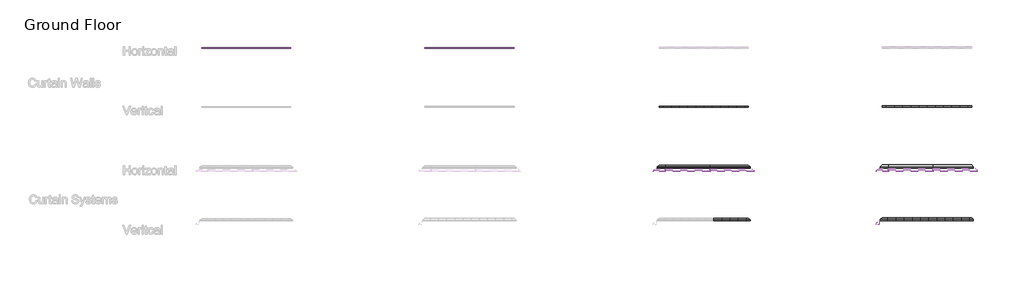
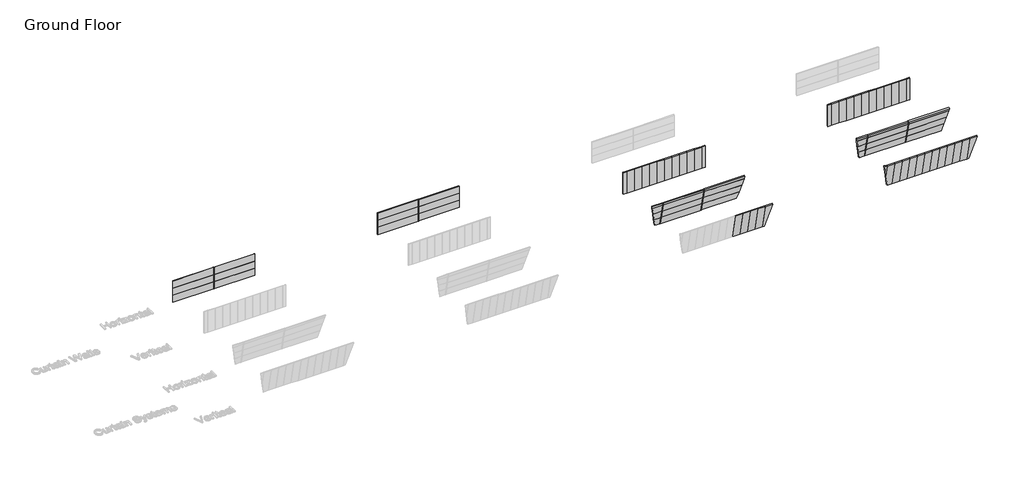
# One storey, part 2 of 9: 78 plates, 22 members.
"""IFC4 building model written with IfcOpenShell, lengths in millimetres."""

from ifc_helpers import new_model, si_unit, origin, place, context, project, spatial, transform, mapped, element, save
from components import rectangular_mullion_pi_mullion_20gap_50depth_70width_047f249b, rectangular_mullion_pi_mullion_20gap_50depth_70width_81056362, rectangular_mullion_pi_mullion_20gap_50depth_70width_d86b8fff, system_panel_73bd7d10, system_panel_42c71903, system_panel_b43a76cf, system_panel_9ec27122, system_panel_e01370ed, system_panel_aee32327, system_panel_6c2b58ab, system_panel_86827932, system_panel_3237bd97, system_panel_7c7c704d, system_panel_694ff7dd, system_panel_97bfa6f5, system_panel_9920641b, system_panel_9c52725a, system_panel_bb879a09, system_panel_51c253d5, system_panel_78d070a1, system_panel_58f566e3, system_panel_3ce11bf5, system_panel_ed6e4fb9, system_panel_b559e272, system_panel_e0de6927, system_panel_362cc927, system_panel_5eaa5fa1, system_panel_1fb29ec4, system_panel_d4aeffd6, system_panel_dc39182a, system_panel_95cb4938, system_panel_1fb53309, system_panel_07ade12d, system_panel_2bcd8dc4, system_panel_894761f5

model = new_model("IFC4")

# Units and contexts
model_context = context("Model", 3, world=origin())
ifc_project = project(units=[si_unit("LENGTHUNIT", "METRE", prefix="MILLI")], contexts=[model_context])

# Site, building, storey
site = spatial("IfcSite", under=ifc_project)
building = spatial("IfcBuilding", under=site)
storey = spatial("IfcBuildingStorey", under=building, Name="Ground Floor", Elevation=0.0)

# Members
placement = place(None, origin())
rectangular_mullion_pi_mullion_20gap_50depth_70width_shape = rectangular_mullion_pi_mullion_20gap_50depth_70width_047f249b(model_context)
element("IfcMember", 1, ObjectType="Rectangular Mullion : PI-Mullion - 20Gap-50Depth-70Width", at=placement, inside=storey, context=model_context, shape_type="MappedRepresentation", body=[
    mapped(rectangular_mullion_pi_mullion_20gap_50depth_70width_shape, transform((-44997.533429, 4766.6714822, 0.0), x_axis=(1.0, 0.0, 0.0), y_axis=(0.0, -1.0, 0.0), z_axis=(0.0, 0.0, -1.0))),
])
element("IfcMember", 2, ObjectType="Rectangular Mullion : PI-Mullion - 20Gap-50Depth-70Width", at=placement, inside=storey, context=model_context, shape_type="MappedRepresentation", body=[
    mapped(rectangular_mullion_pi_mullion_20gap_50depth_70width_shape, transform((-14997.533429, 4766.6714822, 0.0), x_axis=(1.0, 0.0, 0.0), y_axis=(0.0, -1.0, 0.0), z_axis=(0.0, 0.0, -1.0))),
])
element("IfcMember", 3, ObjectType="Rectangular Mullion : PI-Mullion - 20Gap-50Depth-70Width", at=placement, inside=storey, context=model_context, shape_type="MappedRepresentation", body=[
    mapped(rectangular_mullion_pi_mullion_20gap_50depth_70width_shape, transform((-44997.533429, 4766.6714822, 1100.0), x_axis=(1.0, 0.0, 0.0), y_axis=(0.0, -1.0, 0.0), z_axis=(0.0, 0.0, -1.0))),
])
element("IfcMember", 4, ObjectType="Rectangular Mullion : PI-Mullion - 20Gap-50Depth-70Width", at=placement, inside=storey, context=model_context, shape_type="MappedRepresentation", body=[
    mapped(rectangular_mullion_pi_mullion_20gap_50depth_70width_shape, transform((-14997.533429, 4766.6714822, 1100.0), x_axis=(1.0, 0.0, 0.0), y_axis=(0.0, -1.0, 0.0), z_axis=(0.0, 0.0, -1.0))),
])
element("IfcMember", 5, ObjectType="Rectangular Mullion : PI-Mullion - 20Gap-50Depth-70Width", at=placement, inside=storey, context=model_context, shape_type="MappedRepresentation", body=[
    mapped(rectangular_mullion_pi_mullion_20gap_50depth_70width_shape, transform((-44997.533429, 4766.6714822, 2200.0), x_axis=(1.0, 0.0, 0.0), y_axis=(0.0, -1.0, 0.0), z_axis=(0.0, 0.0, -1.0))),
])
element("IfcMember", 6, ObjectType="Rectangular Mullion : PI-Mullion - 20Gap-50Depth-70Width", at=placement, inside=storey, context=model_context, shape_type="MappedRepresentation", body=[
    mapped(rectangular_mullion_pi_mullion_20gap_50depth_70width_shape, transform((-14997.533429, 4766.6714822, 2200.0), x_axis=(1.0, 0.0, 0.0), y_axis=(0.0, -1.0, 0.0), z_axis=(0.0, 0.0, -1.0))),
])
rectangular_mullion_pi_mullion_20gap_50depth_70width_2_shape = rectangular_mullion_pi_mullion_20gap_50depth_70width_81056362(model_context)
element("IfcMember", 7, ObjectType="Rectangular Mullion : PI-Mullion - 20Gap-50Depth-70Width", at=placement, inside=storey, context=model_context, shape_type="MappedRepresentation", body=[
    mapped(rectangular_mullion_pi_mullion_20gap_50depth_70width_2_shape, transform((17312.466571, -11836.337246, 3600.0), x_axis=(-1.0, 0.0, 0.0), y_axis=(0.0, -0.9782687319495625, -0.2073409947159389), z_axis=(0.0, -0.2073409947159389, 0.9782687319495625))),
])
element("IfcMember", 8, ObjectType="Rectangular Mullion : PI-Mullion - 20Gap-50Depth-70Width", at=placement, inside=storey, context=model_context, shape_type="MappedRepresentation", body=[
    mapped(rectangular_mullion_pi_mullion_20gap_50depth_70width_2_shape, transform((11312.466571, -11836.337246, 3600.0), x_axis=(-1.0, 0.0, 0.0), y_axis=(0.0, -0.9782687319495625, -0.2073409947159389), z_axis=(0.0, -0.2073409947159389, 0.9782687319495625))),
])
element("IfcMember", 9, ObjectType="Rectangular Mullion : PI-Mullion - 20Gap-50Depth-70Width", at=placement, inside=storey, context=model_context, shape_type="MappedRepresentation", body=[
    mapped(rectangular_mullion_pi_mullion_20gap_50depth_70width_2_shape, transform((47312.466571, -11836.337246, 3600.0), x_axis=(-1.0, 0.0, 0.0), y_axis=(0.0, -0.9782687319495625, -0.2073409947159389), z_axis=(0.0, -0.2073409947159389, 0.9782687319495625))),
])
element("IfcMember", 10, ObjectType="Rectangular Mullion : PI-Mullion - 20Gap-50Depth-70Width", at=placement, inside=storey, context=model_context, shape_type="MappedRepresentation", body=[
    mapped(rectangular_mullion_pi_mullion_20gap_50depth_70width_2_shape, transform((41312.466571, -11836.337246, 3600.0), x_axis=(-1.0, 0.0, 0.0), y_axis=(0.0, -0.9782687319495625, -0.2073409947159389), z_axis=(0.0, -0.2073409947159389, 0.9782687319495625))),
])
rectangular_mullion_pi_mullion_20gap_50depth_70width_3_shape = rectangular_mullion_pi_mullion_20gap_50depth_70width_d86b8fff(model_context)
element("IfcMember", 11, ObjectType="Rectangular Mullion : PI-Mullion - 20Gap-50Depth-70Width", at=placement, inside=storey, context=model_context, shape_type="MappedRepresentation", body=[
    mapped(rectangular_mullion_pi_mullion_20gap_50depth_70width_3_shape, transform((17312.466571, -11301.403612, 1076.0956051), x_axis=(-1.0, 0.0, 0.0), y_axis=(0.0, -0.9782687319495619, -0.20734099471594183), z_axis=(0.0, -0.20734099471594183, 0.9782687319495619))),
])
element("IfcMember", 12, ObjectType="Rectangular Mullion : PI-Mullion - 20Gap-50Depth-70Width", at=placement, inside=storey, context=model_context, shape_type="MappedRepresentation", body=[
    mapped(rectangular_mullion_pi_mullion_20gap_50depth_70width_3_shape, transform((11312.466571, -11301.403612, 1076.0956051), x_axis=(-1.0, 0.0, 0.0), y_axis=(0.0, -0.9782687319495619, -0.20734099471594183), z_axis=(0.0, -0.20734099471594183, 0.9782687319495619))),
])
element("IfcMember", 13, ObjectType="Rectangular Mullion : PI-Mullion - 20Gap-50Depth-70Width", at=placement, inside=storey, context=model_context, shape_type="MappedRepresentation", body=[
    mapped(rectangular_mullion_pi_mullion_20gap_50depth_70width_3_shape, transform((47312.466571, -11301.403612, 1076.0956051), x_axis=(-1.0, 0.0, 0.0), y_axis=(0.0, -0.9782687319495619, -0.20734099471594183), z_axis=(0.0, -0.20734099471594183, 0.9782687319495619))),
])
element("IfcMember", 14, ObjectType="Rectangular Mullion : PI-Mullion - 20Gap-50Depth-70Width", at=placement, inside=storey, context=model_context, shape_type="MappedRepresentation", body=[
    mapped(rectangular_mullion_pi_mullion_20gap_50depth_70width_3_shape, transform((41312.466571, -11301.403612, 1076.0956051), x_axis=(-1.0, 0.0, 0.0), y_axis=(0.0, -0.9782687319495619, -0.20734099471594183), z_axis=(0.0, -0.20734099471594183, 0.9782687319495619))),
])
element("IfcMember", 15, ObjectType="Rectangular Mullion : PI-Mullion - 20Gap-50Depth-70Width", at=placement, inside=storey, context=model_context, shape_type="MappedRepresentation", body=[
    mapped(rectangular_mullion_pi_mullion_20gap_50depth_70width_3_shape, transform((17312.466571, -11529.4787062, 2152.1912103), x_axis=(-1.0, 0.0, 0.0), y_axis=(0.0, -0.9782687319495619, -0.2073409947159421), z_axis=(0.0, -0.20734099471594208, 0.9782687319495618))),
])
element("IfcMember", 16, ObjectType="Rectangular Mullion : PI-Mullion - 20Gap-50Depth-70Width", at=placement, inside=storey, context=model_context, shape_type="MappedRepresentation", body=[
    mapped(rectangular_mullion_pi_mullion_20gap_50depth_70width_3_shape, transform((11312.466571, -11529.4787062, 2152.1912103), x_axis=(-1.0, 0.0, 0.0), y_axis=(0.0, -0.9782687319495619, -0.2073409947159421), z_axis=(0.0, -0.20734099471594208, 0.9782687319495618))),
])
element("IfcMember", 17, ObjectType="Rectangular Mullion : PI-Mullion - 20Gap-50Depth-70Width", at=placement, inside=storey, context=model_context, shape_type="MappedRepresentation", body=[
    mapped(rectangular_mullion_pi_mullion_20gap_50depth_70width_3_shape, transform((17312.466571, -11757.5538004, 3228.2868154), x_axis=(-1.0, 0.0, 0.0), y_axis=(0.0, -0.978268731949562, -0.20734099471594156), z_axis=(0.0, -0.20734099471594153, 0.9782687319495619))),
])
element("IfcMember", 18, ObjectType="Rectangular Mullion : PI-Mullion - 20Gap-50Depth-70Width", at=placement, inside=storey, context=model_context, shape_type="MappedRepresentation", body=[
    mapped(rectangular_mullion_pi_mullion_20gap_50depth_70width_3_shape, transform((11312.466571, -11757.5538004, 3228.2868154), x_axis=(-1.0, 0.0, 0.0), y_axis=(0.0, -0.978268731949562, -0.20734099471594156), z_axis=(0.0, -0.20734099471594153, 0.9782687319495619))),
])
element("IfcMember", 19, ObjectType="Rectangular Mullion : PI-Mullion - 20Gap-50Depth-70Width", at=placement, inside=storey, context=model_context, shape_type="MappedRepresentation", body=[
    mapped(rectangular_mullion_pi_mullion_20gap_50depth_70width_3_shape, transform((47312.466571, -11529.4787062, 2152.1912103), x_axis=(-1.0, 0.0, 0.0), y_axis=(0.0, -0.9782687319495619, -0.2073409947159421), z_axis=(0.0, -0.20734099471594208, 0.9782687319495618))),
])
element("IfcMember", 20, ObjectType="Rectangular Mullion : PI-Mullion - 20Gap-50Depth-70Width", at=placement, inside=storey, context=model_context, shape_type="MappedRepresentation", body=[
    mapped(rectangular_mullion_pi_mullion_20gap_50depth_70width_3_shape, transform((41312.466571, -11529.4787062, 2152.1912103), x_axis=(-1.0, 0.0, 0.0), y_axis=(0.0, -0.9782687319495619, -0.2073409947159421), z_axis=(0.0, -0.20734099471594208, 0.9782687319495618))),
])
element("IfcMember", 21, ObjectType="Rectangular Mullion : PI-Mullion - 20Gap-50Depth-70Width", at=placement, inside=storey, context=model_context, shape_type="MappedRepresentation", body=[
    mapped(rectangular_mullion_pi_mullion_20gap_50depth_70width_3_shape, transform((47312.466571, -11757.5538004, 3228.2868154), x_axis=(-1.0, 0.0, 0.0), y_axis=(0.0, -0.978268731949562, -0.20734099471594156), z_axis=(0.0, -0.20734099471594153, 0.9782687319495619))),
])
element("IfcMember", 22, ObjectType="Rectangular Mullion : PI-Mullion - 20Gap-50Depth-70Width", at=placement, inside=storey, context=model_context, shape_type="MappedRepresentation", body=[
    mapped(rectangular_mullion_pi_mullion_20gap_50depth_70width_3_shape, transform((41312.466571, -11757.5538004, 3228.2868154), x_axis=(-1.0, 0.0, 0.0), y_axis=(0.0, -0.978268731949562, -0.20734099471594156), z_axis=(0.0, -0.20734099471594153, 0.9782687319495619))),
])

# Plates
system_panel_shape = system_panel_73bd7d10(model_context)
element("IfcPlate", 23, ObjectType="System Panel : MetecnoPanel 150mm Horizontal - Plain Astro - PIR", at=placement, inside=storey, context=model_context, shape_type="MappedRepresentation", body=[
    mapped(system_panel_shape, transform((20032.0327494, -11073.3285178, 0.0), x_axis=(-1.0, 0.0, 0.0), y_axis=(0.0, -0.978268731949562, -0.20734099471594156), z_axis=(0.0, -0.20734099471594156, 0.978268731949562))),
])
system_panel_2_shape = system_panel_42c71903(model_context)
element("IfcPlate", 24, ObjectType="System Panel : MetecnoPanel 150mm Horizontal - Plain Astro - PIR", at=placement, inside=storey, context=model_context, shape_type="MappedRepresentation", body=[
    mapped(system_panel_2_shape, transform((14312.466571, -11073.3285178, 0.0), x_axis=(-1.0, 0.0, 0.0), y_axis=(0.0, -0.978268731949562, -0.20734099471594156), z_axis=(0.0, -0.20734099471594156, 0.978268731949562))),
])
element("IfcPlate", 25, ObjectType="System Panel : MetecnoPanel 150mm Horizontal - Plain Astro - PIR", at=placement, inside=storey, context=model_context, shape_type="MappedRepresentation", body=[
    mapped(system_panel_2_shape, transform((14312.466571, -11301.403612, 1076.0956051), x_axis=(-1.0, 0.0, 0.0), y_axis=(0.0, -0.978268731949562, -0.20734099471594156), z_axis=(0.0, -0.20734099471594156, 0.978268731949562))),
])
element("IfcPlate", 26, ObjectType="System Panel : MetecnoPanel 150mm Horizontal - Plain Astro - PIR", at=placement, inside=storey, context=model_context, shape_type="MappedRepresentation", body=[
    mapped(system_panel_2_shape, transform((14312.466571, -11529.4787062, 2152.1912103), x_axis=(-1.0, 0.0, 0.0), y_axis=(0.0, -0.978268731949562, -0.20734099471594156), z_axis=(0.0, -0.20734099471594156, 0.978268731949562))),
])
system_panel_3_shape = system_panel_b43a76cf(model_context)
element("IfcPlate", 27, ObjectType="System Panel : MetecnoPanel 150mm Horizontal - Plain Astro - PIR", at=placement, inside=storey, context=model_context, shape_type="MappedRepresentation", body=[
    mapped(system_panel_3_shape, transform((10782.9003927, -11073.3285178, 0.0), x_axis=(-1.0, 0.0, 0.0), y_axis=(0.0, -0.978268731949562, -0.20734099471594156), z_axis=(0.0, -0.20734099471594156, 0.978268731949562))),
])
system_panel_4_shape = system_panel_9ec27122(model_context)
element("IfcPlate", 28, ObjectType="System Panel : MetecnoPanel 150mm Horizontal - Plain Astro - PIR", at=placement, inside=storey, context=model_context, shape_type="MappedRepresentation", body=[
    mapped(system_panel_4_shape, transform((20151.5989277, -11301.403612, 1076.0956051), x_axis=(-1.0, 0.0, 0.0), y_axis=(0.0, -0.978268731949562, -0.20734099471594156), z_axis=(0.0, -0.20734099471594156, 0.978268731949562))),
])
system_panel_5_shape = system_panel_e01370ed(model_context)
element("IfcPlate", 29, ObjectType="System Panel : MetecnoPanel 150mm Horizontal - Plain Astro - PIR", at=placement, inside=storey, context=model_context, shape_type="MappedRepresentation", body=[
    mapped(system_panel_5_shape, transform((10663.3342144, -11301.403612, 1076.0956051), x_axis=(-1.0, 0.0, 0.0), y_axis=(0.0, -0.978268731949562, -0.20734099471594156), z_axis=(0.0, -0.20734099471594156, 0.978268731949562))),
])
system_panel_6_shape = system_panel_aee32327(model_context)
element("IfcPlate", 30, ObjectType="System Panel : MetecnoPanel 150mm Horizontal - Plain Astro - PIR", at=placement, inside=storey, context=model_context, shape_type="MappedRepresentation", body=[
    mapped(system_panel_6_shape, transform((20271.1651061, -11529.4787062, 2152.1912103), x_axis=(-1.0, 0.0, 0.0), y_axis=(0.0, -0.978268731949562, -0.20734099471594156), z_axis=(0.0, -0.20734099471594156, 0.978268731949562))),
])
system_panel_7_shape = system_panel_6c2b58ab(model_context)
element("IfcPlate", 31, ObjectType="System Panel : MetecnoPanel 150mm Horizontal - Plain Astro - PIR", at=placement, inside=storey, context=model_context, shape_type="MappedRepresentation", body=[
    mapped(system_panel_7_shape, transform((10543.768036, -11529.4787062, 2152.1912103), x_axis=(-1.0, 0.0, 0.0), y_axis=(0.0, -0.978268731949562, -0.20734099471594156), z_axis=(0.0, -0.20734099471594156, 0.978268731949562))),
])
system_panel_8_shape = system_panel_86827932(model_context)
element("IfcPlate", 32, ObjectType="System Panel : MetecnoPanel 150mm Horizontal - Plain Astro - PIR", at=placement, inside=storey, context=model_context, shape_type="MappedRepresentation", body=[
    mapped(system_panel_8_shape, transform((20312.466571, -11757.5538004, 3228.2868154), x_axis=(-1.0, 0.0, 0.0), y_axis=(0.0, -0.978268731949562, -0.20734099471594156), z_axis=(0.0, -0.20734099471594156, 0.978268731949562))),
])
system_panel_9_shape = system_panel_3237bd97(model_context)
element("IfcPlate", 33, ObjectType="System Panel : MetecnoPanel 150mm Horizontal - Plain Astro - PIR", at=placement, inside=storey, context=model_context, shape_type="MappedRepresentation", body=[
    mapped(system_panel_9_shape, transform((14312.466571, -11757.5538004, 3228.2868154), x_axis=(-1.0, 0.0, 0.0), y_axis=(0.0, -0.978268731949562, -0.20734099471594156), z_axis=(0.0, -0.20734099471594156, 0.978268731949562))),
])
system_panel_10_shape = system_panel_7c7c704d(model_context)
element("IfcPlate", 34, ObjectType="System Panel : MetecnoPanel 150mm Horizontal - Plain Astro - PIR", at=placement, inside=storey, context=model_context, shape_type="MappedRepresentation", body=[
    mapped(system_panel_10_shape, transform((10502.466571, -11757.5538004, 3228.2868154), x_axis=(-1.0, 0.0, 0.0), y_axis=(0.0, -0.978268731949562, -0.20734099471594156), z_axis=(0.0, -0.20734099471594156, 0.978268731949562))),
])
system_panel_11_shape = system_panel_694ff7dd(model_context)
element("IfcPlate", 35, ObjectType="System Panel : MetecnoPanel 150mm Vertical - Plain Astro - PIR", at=placement, inside=storey, context=model_context, shape_type="MappedRepresentation", body=[
    mapped(system_panel_11_shape, transform((22752.466571, -18173.3285178, 0.0), x_axis=(-1.0, 0.0, 0.0), y_axis=(0.0, -0.978268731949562, -0.20734099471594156), z_axis=(0.0, -0.20734099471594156, 0.978268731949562))),
])
system_panel_12_shape = system_panel_97bfa6f5(model_context)
element("IfcPlate", 36, ObjectType="System Panel : MetecnoPanel 150mm Vertical - Plain Astro - PIR", at=placement, inside=storey, context=model_context, shape_type="MappedRepresentation", body=[
    mapped(system_panel_12_shape, transform((21652.466571, -18173.3285178, 0.0), x_axis=(-1.0, 0.0, 0.0), y_axis=(0.0, -0.978268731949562, -0.20734099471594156), z_axis=(0.0, -0.20734099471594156, 0.978268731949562))),
])
element("IfcPlate", 37, ObjectType="System Panel : MetecnoPanel 150mm Vertical - Plain Astro - PIR", at=placement, inside=storey, context=model_context, shape_type="MappedRepresentation", body=[
    mapped(system_panel_12_shape, transform((20552.466571, -18173.3285178, 0.0), x_axis=(-1.0, 0.0, 0.0), y_axis=(0.0, -0.978268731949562, -0.20734099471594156), z_axis=(0.0, -0.20734099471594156, 0.978268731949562))),
])
element("IfcPlate", 38, ObjectType="System Panel : MetecnoPanel 150mm Vertical - Plain Astro - PIR", at=placement, inside=storey, context=model_context, shape_type="MappedRepresentation", body=[
    mapped(system_panel_12_shape, transform((19452.466571, -18173.3285178, 0.0), x_axis=(-1.0, 0.0, 0.0), y_axis=(0.0, -0.978268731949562, -0.20734099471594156), z_axis=(0.0, -0.20734099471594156, 0.978268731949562))),
])
element("IfcPlate", 39, ObjectType="System Panel : MetecnoPanel 150mm Vertical - Plain Astro - PIR", at=placement, inside=storey, context=model_context, shape_type="MappedRepresentation", body=[
    mapped(system_panel_12_shape, transform((18352.466571, -18173.3285178, 0.0), x_axis=(-1.0, 0.0, 0.0), y_axis=(0.0, -0.978268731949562, -0.20734099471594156), z_axis=(0.0, -0.20734099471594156, 0.978268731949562))),
])
system_panel_13_shape = system_panel_9920641b(model_context)
element("IfcPlate", 40, ObjectType="System Panel : MetecnoPanel 200mm Horizontal - Plain Astro - PIR", at=placement, inside=storey, context=model_context, shape_type="MappedRepresentation", body=[
    mapped(system_panel_13_shape, transform((50032.0327494, -11073.3285178, 0.0), x_axis=(-1.0, 0.0, 0.0), y_axis=(0.0, -0.978268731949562, -0.20734099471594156), z_axis=(0.0, -0.20734099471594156, 0.978268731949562))),
])
system_panel_14_shape = system_panel_9c52725a(model_context)
element("IfcPlate", 41, ObjectType="System Panel : MetecnoPanel 200mm Horizontal - Plain Astro - PIR", at=placement, inside=storey, context=model_context, shape_type="MappedRepresentation", body=[
    mapped(system_panel_14_shape, transform((44312.466571, -11073.3285178, 0.0), x_axis=(-1.0, 0.0, 0.0), y_axis=(0.0, -0.978268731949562, -0.20734099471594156), z_axis=(0.0, -0.20734099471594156, 0.978268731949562))),
])
element("IfcPlate", 42, ObjectType="System Panel : MetecnoPanel 200mm Horizontal - Plain Astro - PIR", at=placement, inside=storey, context=model_context, shape_type="MappedRepresentation", body=[
    mapped(system_panel_14_shape, transform((44312.466571, -11301.403612, 1076.0956051), x_axis=(-1.0, 0.0, 0.0), y_axis=(0.0, -0.978268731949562, -0.20734099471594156), z_axis=(0.0, -0.20734099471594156, 0.978268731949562))),
])
element("IfcPlate", 43, ObjectType="System Panel : MetecnoPanel 200mm Horizontal - Plain Astro - PIR", at=placement, inside=storey, context=model_context, shape_type="MappedRepresentation", body=[
    mapped(system_panel_14_shape, transform((44312.466571, -11529.4787062, 2152.1912103), x_axis=(-1.0, 0.0, 0.0), y_axis=(0.0, -0.978268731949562, -0.20734099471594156), z_axis=(0.0, -0.20734099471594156, 0.978268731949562))),
])
system_panel_15_shape = system_panel_bb879a09(model_context)
element("IfcPlate", 44, ObjectType="System Panel : MetecnoPanel 200mm Horizontal - Plain Astro - PIR", at=placement, inside=storey, context=model_context, shape_type="MappedRepresentation", body=[
    mapped(system_panel_15_shape, transform((40782.9003927, -11073.3285178, 0.0), x_axis=(-1.0, 0.0, 0.0), y_axis=(0.0, -0.978268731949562, -0.20734099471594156), z_axis=(0.0, -0.20734099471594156, 0.978268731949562))),
])
system_panel_16_shape = system_panel_51c253d5(model_context)
element("IfcPlate", 45, ObjectType="System Panel : MetecnoPanel 200mm Horizontal - Plain Astro - PIR", at=placement, inside=storey, context=model_context, shape_type="MappedRepresentation", body=[
    mapped(system_panel_16_shape, transform((50151.5989277, -11301.403612, 1076.0956051), x_axis=(-1.0, 0.0, 0.0), y_axis=(0.0, -0.978268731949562, -0.20734099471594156), z_axis=(0.0, -0.20734099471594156, 0.978268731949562))),
])
system_panel_17_shape = system_panel_78d070a1(model_context)
element("IfcPlate", 46, ObjectType="System Panel : MetecnoPanel 200mm Horizontal - Plain Astro - PIR", at=placement, inside=storey, context=model_context, shape_type="MappedRepresentation", body=[
    mapped(system_panel_17_shape, transform((40663.3342144, -11301.403612, 1076.0956051), x_axis=(-1.0, 0.0, 0.0), y_axis=(0.0, -0.978268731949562, -0.20734099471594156), z_axis=(0.0, -0.20734099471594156, 0.978268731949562))),
])
system_panel_18_shape = system_panel_58f566e3(model_context)
element("IfcPlate", 47, ObjectType="System Panel : MetecnoPanel 200mm Horizontal - Plain Astro - PIR", at=placement, inside=storey, context=model_context, shape_type="MappedRepresentation", body=[
    mapped(system_panel_18_shape, transform((50271.1651061, -11529.4787062, 2152.1912103), x_axis=(-1.0, 0.0, 0.0), y_axis=(0.0, -0.978268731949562, -0.20734099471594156), z_axis=(0.0, -0.20734099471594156, 0.978268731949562))),
])
system_panel_19_shape = system_panel_3ce11bf5(model_context)
element("IfcPlate", 48, ObjectType="System Panel : MetecnoPanel 200mm Horizontal - Plain Astro - PIR", at=placement, inside=storey, context=model_context, shape_type="MappedRepresentation", body=[
    mapped(system_panel_19_shape, transform((40543.768036, -11529.4787062, 2152.1912103), x_axis=(-1.0, 0.0, 0.0), y_axis=(0.0, -0.978268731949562, -0.20734099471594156), z_axis=(0.0, -0.20734099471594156, 0.978268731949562))),
])
system_panel_20_shape = system_panel_ed6e4fb9(model_context)
element("IfcPlate", 49, ObjectType="System Panel : MetecnoPanel 200mm Horizontal - Plain Astro - PIR", at=placement, inside=storey, context=model_context, shape_type="MappedRepresentation", body=[
    mapped(system_panel_20_shape, transform((50312.466571, -11757.5538004, 3228.2868154), x_axis=(-1.0, 0.0, 0.0), y_axis=(0.0, -0.978268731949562, -0.20734099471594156), z_axis=(0.0, -0.20734099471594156, 0.978268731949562))),
])
system_panel_21_shape = system_panel_b559e272(model_context)
element("IfcPlate", 50, ObjectType="System Panel : MetecnoPanel 200mm Horizontal - Plain Astro - PIR", at=placement, inside=storey, context=model_context, shape_type="MappedRepresentation", body=[
    mapped(system_panel_21_shape, transform((44312.466571, -11757.5538004, 3228.2868154), x_axis=(-1.0, 0.0, 0.0), y_axis=(0.0, -0.978268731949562, -0.20734099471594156), z_axis=(0.0, -0.20734099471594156, 0.978268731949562))),
])
system_panel_22_shape = system_panel_e0de6927(model_context)
element("IfcPlate", 51, ObjectType="System Panel : MetecnoPanel 200mm Horizontal - Plain Astro - PIR", at=placement, inside=storey, context=model_context, shape_type="MappedRepresentation", body=[
    mapped(system_panel_22_shape, transform((40502.466571, -11757.5538004, 3228.2868154), x_axis=(-1.0, 0.0, 0.0), y_axis=(0.0, -0.978268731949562, -0.20734099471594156), z_axis=(0.0, -0.20734099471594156, 0.978268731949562))),
])
system_panel_23_shape = system_panel_362cc927(model_context)
element("IfcPlate", 52, ObjectType="System Panel : MetecnoPanel 200mm Vertical - Plain Astro - PIR", at=placement, inside=storey, context=model_context, shape_type="MappedRepresentation", body=[
    mapped(system_panel_23_shape, transform((52752.466571, -18173.3285178, 0.0), x_axis=(-1.0, 0.0, 0.0), y_axis=(0.0, -0.978268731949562, -0.20734099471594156), z_axis=(0.0, -0.20734099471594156, 0.978268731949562))),
])
system_panel_24_shape = system_panel_5eaa5fa1(model_context)
element("IfcPlate", 53, ObjectType="System Panel : MetecnoPanel 200mm Vertical - Plain Astro - PIR", at=placement, inside=storey, context=model_context, shape_type="MappedRepresentation", body=[
    mapped(system_panel_24_shape, transform((51652.466571, -18173.3285178, 0.0), x_axis=(-1.0, 0.0, 0.0), y_axis=(0.0, -0.978268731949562, -0.20734099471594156), z_axis=(0.0, -0.20734099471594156, 0.978268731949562))),
])
element("IfcPlate", 54, ObjectType="System Panel : MetecnoPanel 200mm Vertical - Plain Astro - PIR", at=placement, inside=storey, context=model_context, shape_type="MappedRepresentation", body=[
    mapped(system_panel_24_shape, transform((50552.466571, -18173.3285178, 0.0), x_axis=(-1.0, 0.0, 0.0), y_axis=(0.0, -0.978268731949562, -0.20734099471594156), z_axis=(0.0, -0.20734099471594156, 0.978268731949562))),
])
element("IfcPlate", 55, ObjectType="System Panel : MetecnoPanel 200mm Vertical - Plain Astro - PIR", at=placement, inside=storey, context=model_context, shape_type="MappedRepresentation", body=[
    mapped(system_panel_24_shape, transform((49452.466571, -18173.3285178, 0.0), x_axis=(-1.0, 0.0, 0.0), y_axis=(0.0, -0.978268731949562, -0.20734099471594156), z_axis=(0.0, -0.20734099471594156, 0.978268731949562))),
])
element("IfcPlate", 56, ObjectType="System Panel : MetecnoPanel 200mm Vertical - Plain Astro - PIR", at=placement, inside=storey, context=model_context, shape_type="MappedRepresentation", body=[
    mapped(system_panel_24_shape, transform((48352.466571, -18173.3285178, 0.0), x_axis=(-1.0, 0.0, 0.0), y_axis=(0.0, -0.978268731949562, -0.20734099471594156), z_axis=(0.0, -0.20734099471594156, 0.978268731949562))),
])
element("IfcPlate", 57, ObjectType="System Panel : MetecnoPanel 200mm Vertical - Plain Astro - PIR", at=placement, inside=storey, context=model_context, shape_type="MappedRepresentation", body=[
    mapped(system_panel_24_shape, transform((47252.466571, -18173.3285178, 0.0), x_axis=(-1.0, 0.0, 0.0), y_axis=(0.0, -0.978268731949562, -0.20734099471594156), z_axis=(0.0, -0.20734099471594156, 0.978268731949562))),
])
element("IfcPlate", 58, ObjectType="System Panel : MetecnoPanel 200mm Vertical - Plain Astro - PIR", at=placement, inside=storey, context=model_context, shape_type="MappedRepresentation", body=[
    mapped(system_panel_24_shape, transform((46152.466571, -18173.3285178, 0.0), x_axis=(-1.0, 0.0, 0.0), y_axis=(0.0, -0.978268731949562, -0.20734099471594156), z_axis=(0.0, -0.20734099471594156, 0.978268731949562))),
])
element("IfcPlate", 59, ObjectType="System Panel : MetecnoPanel 200mm Vertical - Plain Astro - PIR", at=placement, inside=storey, context=model_context, shape_type="MappedRepresentation", body=[
    mapped(system_panel_24_shape, transform((45052.466571, -18173.3285178, 0.0), x_axis=(-1.0, 0.0, 0.0), y_axis=(0.0, -0.978268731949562, -0.20734099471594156), z_axis=(0.0, -0.20734099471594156, 0.978268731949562))),
])
element("IfcPlate", 60, ObjectType="System Panel : MetecnoPanel 200mm Vertical - Plain Astro - PIR", at=placement, inside=storey, context=model_context, shape_type="MappedRepresentation", body=[
    mapped(system_panel_24_shape, transform((43952.466571, -18173.3285178, 0.0), x_axis=(-1.0, 0.0, 0.0), y_axis=(0.0, -0.978268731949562, -0.20734099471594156), z_axis=(0.0, -0.20734099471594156, 0.978268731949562))),
])
element("IfcPlate", 61, ObjectType="System Panel : MetecnoPanel 200mm Vertical - Plain Astro - PIR", at=placement, inside=storey, context=model_context, shape_type="MappedRepresentation", body=[
    mapped(system_panel_24_shape, transform((42852.466571, -18173.3285178, 0.0), x_axis=(-1.0, 0.0, 0.0), y_axis=(0.0, -0.978268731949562, -0.20734099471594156), z_axis=(0.0, -0.20734099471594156, 0.978268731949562))),
])
element("IfcPlate", 62, ObjectType="System Panel : MetecnoPanel 200mm Vertical - Plain Astro - PIR", at=placement, inside=storey, context=model_context, shape_type="MappedRepresentation", body=[
    mapped(system_panel_24_shape, transform((41752.466571, -18173.3285178, 0.0), x_axis=(-1.0, 0.0, 0.0), y_axis=(0.0, -0.978268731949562, -0.20734099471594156), z_axis=(0.0, -0.20734099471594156, 0.978268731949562))),
])
system_panel_25_shape = system_panel_1fb29ec4(model_context)
element("IfcPlate", 63, ObjectType="System Panel : MetecnoPanel 200mm Vertical - Plain Astro - PIR", at=placement, inside=storey, context=model_context, shape_type="MappedRepresentation", body=[
    mapped(system_panel_25_shape, transform((40652.466571, -18173.3285178, 0.0), x_axis=(-1.0, 0.0, 0.0), y_axis=(0.0, -0.978268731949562, -0.20734099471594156), z_axis=(0.0, -0.20734099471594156, 0.978268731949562))),
])
system_panel_26_shape = system_panel_d4aeffd6(model_context)
element("IfcPlate", 64, ObjectType="System Panel : MetecnoPanel 200mm Vertical - Plain Astro - PIR", at=placement, inside=storey, context=model_context, shape_type="MappedRepresentation", body=[
    mapped(system_panel_26_shape, transform((39902.466571, -18554.8328819, 1800.0), x_axis=(-1.0, 0.0, 0.0), y_axis=(0.0, -0.978268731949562, -0.20734099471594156), z_axis=(0.0, -0.20734099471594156, 0.978268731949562))),
])
system_panel_27_shape = system_panel_dc39182a(model_context)
element("IfcPlate", 65, ObjectType="System Panel : MetecnoPanel 75mm Horizontal - Plain Astro - PIR", at=placement, inside=storey, context=model_context, shape_type="MappedRepresentation", body=[
    mapped(system_panel_27_shape, transform((-48002.533429, 4766.6714822, 0.0), x_axis=(1.0, 0.0, 0.0), y_axis=(0.0, 1.0, 0.0), z_axis=(0.0, 0.0, 1.0))),
])
element("IfcPlate", 66, ObjectType="System Panel : MetecnoPanel 75mm Horizontal - Plain Astro - PIR", at=placement, inside=storey, context=model_context, shape_type="MappedRepresentation", body=[
    mapped(system_panel_27_shape, transform((-41992.533429, 4766.6714822, 0.0), x_axis=(1.0, 0.0, 0.0), y_axis=(0.0, 1.0, 0.0), z_axis=(0.0, 0.0, 1.0))),
])
element("IfcPlate", 67, ObjectType="System Panel : MetecnoPanel 75mm Horizontal - Plain Astro - PIR", at=placement, inside=storey, context=model_context, shape_type="MappedRepresentation", body=[
    mapped(system_panel_27_shape, transform((-48002.533429, 4766.6714822, 1100.0), x_axis=(1.0, 0.0, 0.0), y_axis=(0.0, 1.0, 0.0), z_axis=(0.0, 0.0, 1.0))),
])
element("IfcPlate", 68, ObjectType="System Panel : MetecnoPanel 75mm Horizontal - Plain Astro - PIR", at=placement, inside=storey, context=model_context, shape_type="MappedRepresentation", body=[
    mapped(system_panel_27_shape, transform((-41992.533429, 4766.6714822, 1100.0), x_axis=(1.0, 0.0, 0.0), y_axis=(0.0, 1.0, 0.0), z_axis=(0.0, 0.0, 1.0))),
])
element("IfcPlate", 69, ObjectType="System Panel : MetecnoPanel 75mm Horizontal - Plain Astro - PIR", at=placement, inside=storey, context=model_context, shape_type="MappedRepresentation", body=[
    mapped(system_panel_27_shape, transform((-48002.533429, 4766.6714822, 2200.0), x_axis=(1.0, 0.0, 0.0), y_axis=(0.0, 1.0, 0.0), z_axis=(0.0, 0.0, 1.0))),
])
element("IfcPlate", 70, ObjectType="System Panel : MetecnoPanel 75mm Horizontal - Plain Astro - PIR", at=placement, inside=storey, context=model_context, shape_type="MappedRepresentation", body=[
    mapped(system_panel_27_shape, transform((-41992.533429, 4766.6714822, 2200.0), x_axis=(1.0, 0.0, 0.0), y_axis=(0.0, 1.0, 0.0), z_axis=(0.0, 0.0, 1.0))),
])
system_panel_28_shape = system_panel_95cb4938(model_context)
element("IfcPlate", 71, ObjectType="System Panel : MetecnoPanel 100mm Horizontal - Plain Astro - PIR", at=placement, inside=storey, context=model_context, shape_type="MappedRepresentation", body=[
    mapped(system_panel_28_shape, transform((-18002.533429, 4766.6714822, 0.0), x_axis=(1.0, 0.0, 0.0), y_axis=(0.0, 1.0, 0.0), z_axis=(0.0, 0.0, 1.0))),
])
element("IfcPlate", 72, ObjectType="System Panel : MetecnoPanel 100mm Horizontal - Plain Astro - PIR", at=placement, inside=storey, context=model_context, shape_type="MappedRepresentation", body=[
    mapped(system_panel_28_shape, transform((-11992.533429, 4766.6714822, 0.0), x_axis=(1.0, 0.0, 0.0), y_axis=(0.0, 1.0, 0.0), z_axis=(0.0, 0.0, 1.0))),
])
element("IfcPlate", 73, ObjectType="System Panel : MetecnoPanel 100mm Horizontal - Plain Astro - PIR", at=placement, inside=storey, context=model_context, shape_type="MappedRepresentation", body=[
    mapped(system_panel_28_shape, transform((-18002.533429, 4766.6714822, 1100.0), x_axis=(1.0, 0.0, 0.0), y_axis=(0.0, 1.0, 0.0), z_axis=(0.0, 0.0, 1.0))),
])
element("IfcPlate", 74, ObjectType="System Panel : MetecnoPanel 100mm Horizontal - Plain Astro - PIR", at=placement, inside=storey, context=model_context, shape_type="MappedRepresentation", body=[
    mapped(system_panel_28_shape, transform((-11992.533429, 4766.6714822, 1100.0), x_axis=(1.0, 0.0, 0.0), y_axis=(0.0, 1.0, 0.0), z_axis=(0.0, 0.0, 1.0))),
])
element("IfcPlate", 75, ObjectType="System Panel : MetecnoPanel 100mm Horizontal - Plain Astro - PIR", at=placement, inside=storey, context=model_context, shape_type="MappedRepresentation", body=[
    mapped(system_panel_28_shape, transform((-18002.533429, 4766.6714822, 2200.0), x_axis=(1.0, 0.0, 0.0), y_axis=(0.0, 1.0, 0.0), z_axis=(0.0, 0.0, 1.0))),
])
element("IfcPlate", 76, ObjectType="System Panel : MetecnoPanel 100mm Horizontal - Plain Astro - PIR", at=placement, inside=storey, context=model_context, shape_type="MappedRepresentation", body=[
    mapped(system_panel_28_shape, transform((-11992.533429, 4766.6714822, 2200.0), x_axis=(1.0, 0.0, 0.0), y_axis=(0.0, 1.0, 0.0), z_axis=(0.0, 0.0, 1.0))),
])
system_panel_29_shape = system_panel_1fb53309(model_context)
element("IfcPlate", 77, ObjectType="System Panel : MetecnoPanel 150mm Vertical - Plain Astro - PIR", at=placement, inside=storey, context=model_context, shape_type="MappedRepresentation", body=[
    mapped(system_panel_29_shape, transform((10752.466571, -3133.3285178, 0.0), x_axis=(1.0, 0.0, 0.0), y_axis=(0.0, 1.0, 0.0), z_axis=(0.0, 0.0, 1.0))),
])
element("IfcPlate", 78, ObjectType="System Panel : MetecnoPanel 150mm Vertical - Plain Astro - PIR", at=placement, inside=storey, context=model_context, shape_type="MappedRepresentation", body=[
    mapped(system_panel_29_shape, transform((22252.466571, -3133.3285178, 0.0), x_axis=(1.0, 0.0, 0.0), y_axis=(0.0, 1.0, 0.0), z_axis=(0.0, 0.0, 1.0))),
])
system_panel_30_shape = system_panel_07ade12d(model_context)
element("IfcPlate", 79, ObjectType="System Panel : MetecnoPanel 150mm Vertical - Plain Astro - PIR", at=placement, inside=storey, context=model_context, shape_type="MappedRepresentation", body=[
    mapped(system_panel_30_shape, transform((13752.466571, -3133.3285178, 0.0), x_axis=(1.0, 0.0, 0.0), y_axis=(0.0, 1.0, 0.0), z_axis=(0.0, 0.0, 1.0))),
])
element("IfcPlate", 80, ObjectType="System Panel : MetecnoPanel 150mm Vertical - Plain Astro - PIR", at=placement, inside=storey, context=model_context, shape_type="MappedRepresentation", body=[
    mapped(system_panel_30_shape, transform((14852.466571, -3133.3285178, 0.0), x_axis=(1.0, 0.0, 0.0), y_axis=(0.0, 1.0, 0.0), z_axis=(0.0, 0.0, 1.0))),
])
element("IfcPlate", 81, ObjectType="System Panel : MetecnoPanel 150mm Vertical - Plain Astro - PIR", at=placement, inside=storey, context=model_context, shape_type="MappedRepresentation", body=[
    mapped(system_panel_30_shape, transform((15952.466571, -3133.3285178, 0.0), x_axis=(1.0, 0.0, 0.0), y_axis=(0.0, 1.0, 0.0), z_axis=(0.0, 0.0, 1.0))),
])
element("IfcPlate", 82, ObjectType="System Panel : MetecnoPanel 150mm Vertical - Plain Astro - PIR", at=placement, inside=storey, context=model_context, shape_type="MappedRepresentation", body=[
    mapped(system_panel_30_shape, transform((17052.466571, -3133.3285178, 0.0), x_axis=(1.0, 0.0, 0.0), y_axis=(0.0, 1.0, 0.0), z_axis=(0.0, 0.0, 1.0))),
])
element("IfcPlate", 83, ObjectType="System Panel : MetecnoPanel 150mm Vertical - Plain Astro - PIR", at=placement, inside=storey, context=model_context, shape_type="MappedRepresentation", body=[
    mapped(system_panel_30_shape, transform((18152.466571, -3133.3285178, 0.0), x_axis=(1.0, 0.0, 0.0), y_axis=(0.0, 1.0, 0.0), z_axis=(0.0, 0.0, 1.0))),
])
element("IfcPlate", 84, ObjectType="System Panel : MetecnoPanel 150mm Vertical - Plain Astro - PIR", at=placement, inside=storey, context=model_context, shape_type="MappedRepresentation", body=[
    mapped(system_panel_30_shape, transform((19252.466571, -3133.3285178, 0.0), x_axis=(1.0, 0.0, 0.0), y_axis=(0.0, 1.0, 0.0), z_axis=(0.0, 0.0, 1.0))),
])
element("IfcPlate", 85, ObjectType="System Panel : MetecnoPanel 150mm Vertical - Plain Astro - PIR", at=placement, inside=storey, context=model_context, shape_type="MappedRepresentation", body=[
    mapped(system_panel_30_shape, transform((20352.466571, -3133.3285178, 0.0), x_axis=(1.0, 0.0, 0.0), y_axis=(0.0, 1.0, 0.0), z_axis=(0.0, 0.0, 1.0))),
])
element("IfcPlate", 86, ObjectType="System Panel : MetecnoPanel 150mm Vertical - Plain Astro - PIR", at=placement, inside=storey, context=model_context, shape_type="MappedRepresentation", body=[
    mapped(system_panel_30_shape, transform((21452.466571, -3133.3285178, 0.0), x_axis=(1.0, 0.0, 0.0), y_axis=(0.0, 1.0, 0.0), z_axis=(0.0, 0.0, 1.0))),
])
element("IfcPlate", 87, ObjectType="System Panel : MetecnoPanel 150mm Vertical - Plain Astro - PIR", at=placement, inside=storey, context=model_context, shape_type="MappedRepresentation", body=[
    mapped(system_panel_30_shape, transform((12652.466571, -3133.3285178, 0.0), x_axis=(1.0, 0.0, 0.0), y_axis=(0.0, 1.0, 0.0), z_axis=(0.0, 0.0, 1.0))),
])
element("IfcPlate", 88, ObjectType="System Panel : MetecnoPanel 150mm Vertical - Plain Astro - PIR", at=placement, inside=storey, context=model_context, shape_type="MappedRepresentation", body=[
    mapped(system_panel_30_shape, transform((11552.466571, -3133.3285178, 0.0), x_axis=(1.0, 0.0, 0.0), y_axis=(0.0, 1.0, 0.0), z_axis=(0.0, 0.0, 1.0))),
])
system_panel_31_shape = system_panel_2bcd8dc4(model_context)
element("IfcPlate", 89, ObjectType="System Panel : MetecnoPanel 200mm Vertical - Plain Astro - PIR", at=placement, inside=storey, context=model_context, shape_type="MappedRepresentation", body=[
    mapped(system_panel_31_shape, transform((40752.466571, -3133.3285178, 0.0), x_axis=(1.0, 0.0, 0.0), y_axis=(0.0, 1.0, 0.0), z_axis=(0.0, 0.0, 1.0))),
])
element("IfcPlate", 90, ObjectType="System Panel : MetecnoPanel 200mm Vertical - Plain Astro - PIR", at=placement, inside=storey, context=model_context, shape_type="MappedRepresentation", body=[
    mapped(system_panel_31_shape, transform((52252.466571, -3133.3285178, 0.0), x_axis=(1.0, 0.0, 0.0), y_axis=(0.0, 1.0, 0.0), z_axis=(0.0, 0.0, 1.0))),
])
system_panel_32_shape = system_panel_894761f5(model_context)
element("IfcPlate", 91, ObjectType="System Panel : MetecnoPanel 200mm Vertical - Plain Astro - PIR", at=placement, inside=storey, context=model_context, shape_type="MappedRepresentation", body=[
    mapped(system_panel_32_shape, transform((43752.466571, -3133.3285178, 0.0), x_axis=(1.0, 0.0, 0.0), y_axis=(0.0, 1.0, 0.0), z_axis=(0.0, 0.0, 1.0))),
])
element("IfcPlate", 92, ObjectType="System Panel : MetecnoPanel 200mm Vertical - Plain Astro - PIR", at=placement, inside=storey, context=model_context, shape_type="MappedRepresentation", body=[
    mapped(system_panel_32_shape, transform((44852.466571, -3133.3285178, 0.0), x_axis=(1.0, 0.0, 0.0), y_axis=(0.0, 1.0, 0.0), z_axis=(0.0, 0.0, 1.0))),
])
element("IfcPlate", 93, ObjectType="System Panel : MetecnoPanel 200mm Vertical - Plain Astro - PIR", at=placement, inside=storey, context=model_context, shape_type="MappedRepresentation", body=[
    mapped(system_panel_32_shape, transform((45952.466571, -3133.3285178, 0.0), x_axis=(1.0, 0.0, 0.0), y_axis=(0.0, 1.0, 0.0), z_axis=(0.0, 0.0, 1.0))),
])
element("IfcPlate", 94, ObjectType="System Panel : MetecnoPanel 200mm Vertical - Plain Astro - PIR", at=placement, inside=storey, context=model_context, shape_type="MappedRepresentation", body=[
    mapped(system_panel_32_shape, transform((47052.466571, -3133.3285178, 0.0), x_axis=(1.0, 0.0, 0.0), y_axis=(0.0, 1.0, 0.0), z_axis=(0.0, 0.0, 1.0))),
])
element("IfcPlate", 95, ObjectType="System Panel : MetecnoPanel 200mm Vertical - Plain Astro - PIR", at=placement, inside=storey, context=model_context, shape_type="MappedRepresentation", body=[
    mapped(system_panel_32_shape, transform((48152.466571, -3133.3285178, 0.0), x_axis=(1.0, 0.0, 0.0), y_axis=(0.0, 1.0, 0.0), z_axis=(0.0, 0.0, 1.0))),
])
element("IfcPlate", 96, ObjectType="System Panel : MetecnoPanel 200mm Vertical - Plain Astro - PIR", at=placement, inside=storey, context=model_context, shape_type="MappedRepresentation", body=[
    mapped(system_panel_32_shape, transform((49252.466571, -3133.3285178, 0.0), x_axis=(1.0, 0.0, 0.0), y_axis=(0.0, 1.0, 0.0), z_axis=(0.0, 0.0, 1.0))),
])
element("IfcPlate", 97, ObjectType="System Panel : MetecnoPanel 200mm Vertical - Plain Astro - PIR", at=placement, inside=storey, context=model_context, shape_type="MappedRepresentation", body=[
    mapped(system_panel_32_shape, transform((50352.466571, -3133.3285178, 0.0), x_axis=(1.0, 0.0, 0.0), y_axis=(0.0, 1.0, 0.0), z_axis=(0.0, 0.0, 1.0))),
])
element("IfcPlate", 98, ObjectType="System Panel : MetecnoPanel 200mm Vertical - Plain Astro - PIR", at=placement, inside=storey, context=model_context, shape_type="MappedRepresentation", body=[
    mapped(system_panel_32_shape, transform((51452.466571, -3133.3285178, 0.0), x_axis=(1.0, 0.0, 0.0), y_axis=(0.0, 1.0, 0.0), z_axis=(0.0, 0.0, 1.0))),
])
element("IfcPlate", 99, ObjectType="System Panel : MetecnoPanel 200mm Vertical - Plain Astro - PIR", at=placement, inside=storey, context=model_context, shape_type="MappedRepresentation", body=[
    mapped(system_panel_32_shape, transform((42652.466571, -3133.3285178, 0.0), x_axis=(1.0, 0.0, 0.0), y_axis=(0.0, 1.0, 0.0), z_axis=(0.0, 0.0, 1.0))),
])
element("IfcPlate", 100, ObjectType="System Panel : MetecnoPanel 200mm Vertical - Plain Astro - PIR", at=placement, inside=storey, context=model_context, shape_type="MappedRepresentation", body=[
    mapped(system_panel_32_shape, transform((41552.466571, -3133.3285178, 0.0), x_axis=(1.0, 0.0, 0.0), y_axis=(0.0, 1.0, 0.0), z_axis=(0.0, 0.0, 1.0))),
])

save(model, "model.ifc")
